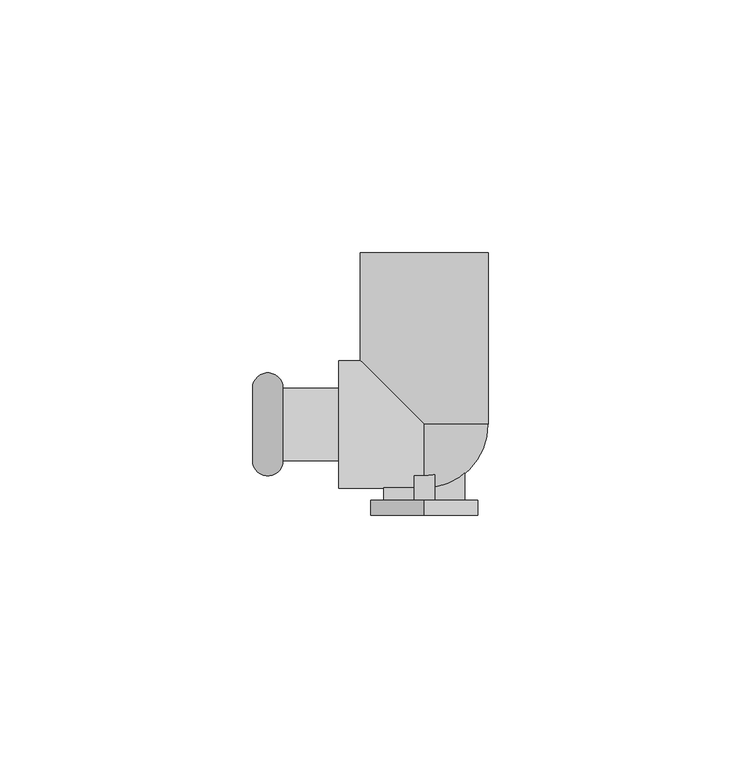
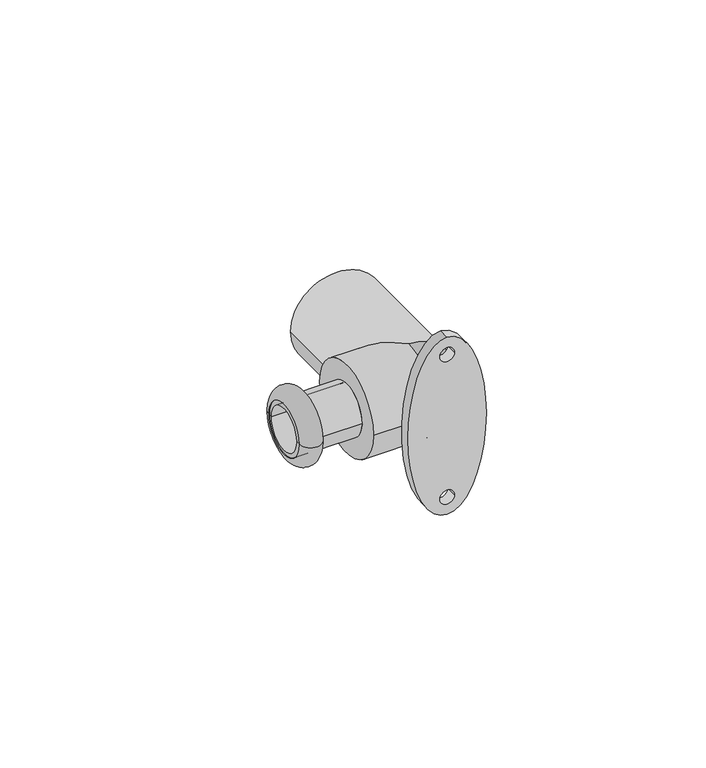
"""IFC4 building model written with IfcOpenShell, lengths in millimetres: pipe fitting geometry."""

from ifc_helpers import new_model, si_unit, point, frame, origin, place, context, project, spatial, polyline, circle_curve, ellipse_curve, trimmed, outline, extrude, source, transform, mapped, element, save
from ifc_brep_helpers import plane_surface, cylinder_surface, revolved_surface, extruded_surface, advanced_brep


def pipe_fitting_ba9ec953(model_context):
    return source(origin(), model_context, "Body", "SolidModel", [
        advanced_brep(
        [(-34.0, 7.2, 0.0), (-34.0, -7.2, 0.0), (-27.9987073, -7.2, 0.0), (-27.9987073, 7.2, 0.0)],
        [
            (0, 1, circle_curve(frame((-34.0, 0.0, 0.0), z_axis=(-1.0, 0.0, 0.0), x_axis=(0.0, -1.0000000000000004, 0.0)), 7.2)),
            (1, 2),
            (2, 3, circle_curve(frame((-27.9987073, 0.0, 0.0), z_axis=(1.0, 0.0, 0.0), x_axis=(0.0, -1.0000000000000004, 0.0)), 7.2)),
            (3, 0),
            (1, 0, circle_curve(frame((-34.0, 0.0, 0.0), z_axis=(-1.0, 0.0, 0.0), x_axis=(0.0, -1.0000000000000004, 0.0)), 7.2)),
            (3, 2, circle_curve(frame((-27.9987073, 0.0, 0.0), z_axis=(1.0, 0.0, 0.0), x_axis=(0.0, -1.0000000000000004, 0.0)), 7.2)),
            (2, 1, circle_curve(frame((-30.9993536, -7.2, 0.0), z_axis=(0.0, 0.0, -1.0000000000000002), x_axis=(-1.0000000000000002, 0.0, 0.0)), 3.0006464)),
            (0, 3, circle_curve(frame((-30.9993536, 7.2, 0.0), z_axis=(0.0, 0.0, -1.0000000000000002), x_axis=(-1.0000000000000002, 0.0, 0.0)), 3.0006464)),
        ],
        [
            revolved_surface(polyline([(-27.998707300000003, -7.200000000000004, 0.0), (-34.00000000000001, -7.200000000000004, 0.0)]), (-17.0, 0.0, 0.0), (1.0000000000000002, 0.0, 0.0)),
            revolved_surface(trimmed(ellipse_curve(frame((-30.9993536, -7.2, 0.0), z_axis=(0.0, 0.0, 1.0000000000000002), x_axis=(-1.0000000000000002, 0.0, 0.0)), 3.0006464, 3.0006464), [point((-34.0, -7.2, 0.0))], [point((-27.9987073, -7.2, 0.0))], True, "CARTESIAN"), (-17.0, 0.0, 0.0), (1.0000000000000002, 0.0, 0.0)),
        ],
        [
            (0, [[1, 2, 3, 4]]),
            (0, [[5, -4, 6, -2]]),
            (1, [[-3, 7, -1, 8]]),
            (1, [[-6, -8, -5, -7]]),
        ],
    ),
        advanced_brep(
        [(-34.0, 6.0, 0.0), (-34.0, -6.0, 0.0), (-16.0, -6.0, 0.0), (-16.0, 6.0, 0.0), (-34.0, 7.2, 0.0), (-34.0, -7.2, 0.0), (-17.0, 7.2, 0.0), (-17.0, -7.2, 0.0)],
        [
            (0, 1, circle_curve(frame((-34.0, 0.0, 0.0), z_axis=(-1.0, 0.0, 0.0), x_axis=(0.0, -1.0000000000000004, 0.0)), 6.0)),
            (1, 2),
            (2, 3, circle_curve(frame((-16.0, 0.0, 0.0), z_axis=(1.0, 0.0, 0.0), x_axis=(0.0, -1.0000000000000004, 0.0)), 6.0)),
            (3, 0),
            (1, 0, circle_curve(frame((-34.0, 0.0, 0.0), z_axis=(-1.0, 0.0, 0.0), x_axis=(0.0, -1.0000000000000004, 0.0)), 6.0)),
            (3, 2, circle_curve(frame((-16.0, 0.0, 0.0), z_axis=(1.0, 0.0, 0.0), x_axis=(0.0, -1.0000000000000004, 0.0)), 6.0)),
            (4, 5, circle_curve(frame((-34.0, 0.0, 0.0), z_axis=(-1.0, 0.0, 0.0), x_axis=(0.0, -1.0000000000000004, 0.0)), 7.2)),
            (5, 1),
            (0, 4),
            (5, 4, circle_curve(frame((-34.0, 0.0, 0.0), z_axis=(-1.0, 0.0, 0.0), x_axis=(0.0, -1.0000000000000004, 0.0)), 7.2)),
            (6, 7, circle_curve(frame((-17.0, 0.0, 0.0), z_axis=(-1.0, 0.0, 0.0), x_axis=(0.0, -1.0000000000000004, 0.0)), 7.2)),
            (7, 5),
            (4, 6),
            (7, 6, circle_curve(frame((-17.0, 0.0, 0.0), z_axis=(-1.0, 0.0, 0.0), x_axis=(0.0, -1.0000000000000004, 0.0)), 7.2)),
            (2, 7),
            (6, 3),
        ],
        [
            revolved_surface(polyline([(-16.0, -6.000000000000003, 0.0), (-34.00000000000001, -6.000000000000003, 0.0)]), (-17.0, 0.0, 0.0), (1.0000000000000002, 0.0, 0.0)),
            plane_surface(frame((-34.0, 0.0, 0.0), z_axis=(-1.0, 0.0, 0.0), x_axis=(0.0, -1.0, 0.0))),
            cylinder_surface(frame((-17.0, 0.0, 0.0), z_axis=(1.0000000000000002, 0.0, 0.0), x_axis=(0.0, -1.0000000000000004, 0.0)), 7.2),
            revolved_surface(polyline([(-17.0, -7.2, 0.0), (-16.0, -6.0, 0.0)]), (-17.0, 0.0, 0.0), (1.0000000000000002, 0.0, 0.0)),
        ],
        [
            (0, [[1, 2, 3, 4]]),
            (0, [[5, -4, 6, -2]]),
            (1, [[7, 8, -1, 9]]),
            (1, [[10, -9, -5, -8]]),
            (2, [[11, 12, -7, 13]]),
            (2, [[14, -13, -10, -12]]),
            (3, [[-3, 15, -11, 16]]),
            (3, [[-6, -16, -14, -15]]),
        ],
    ),
        advanced_brep(
        [(0.0, 0.0, 12.65), (0.0, -12.65, 0.0), (0.0, 0.0, -12.65), (12.65, 0.0, 0.0), (-17.0, 12.65, 0.0), (-17.0, -12.65, 0.0), (-12.65, 12.65, 0.0), (12.65, 34.0, 0.0), (-12.65, 34.0, 0.0), (-8.65, 34.0, 0.0), (8.65, 34.0, 0.0), (8.65, 19.35, 0.0), (-8.65, 19.35, 0.0)],
        [
            (0, 1, circle_curve(frame((0.0, 0.0, 0.0), z_axis=(1.0, 0.0, 0.0), x_axis=(0.0, 1.0, 0.0)), 12.65)),
            (1, 2, circle_curve(frame((0.0, 0.0, 0.0), z_axis=(1.0, 0.0, 0.0), x_axis=(0.0, 1.0, 0.0)), 12.65)),
            (2, 3, circle_curve(frame((0.0, 0.0, 0.0), z_axis=(0.0, -1.0, 0.0), x_axis=(0.0, 0.0, 1.0)), 12.65)),
            (3, 0, circle_curve(frame((0.0, 0.0, 0.0), z_axis=(0.0, -1.0, 0.0), x_axis=(0.0, 0.0, 1.0)), 12.65)),
            (4, 5, circle_curve(frame((-17.0, 0.0, 0.0), z_axis=(-1.0, 0.0, 0.0), x_axis=(0.0, -1.0, 0.0)), 12.65)),
            (5, 4, circle_curve(frame((-17.0, 0.0, 0.0), z_axis=(-1.0, 0.0, 0.0), x_axis=(0.0, -1.0, 0.0)), 12.65)),
            (5, 1),
            (0, 6, ellipse_curve(frame((0.0, 0.0, 0.0), z_axis=(-0.7071067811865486, -0.7071067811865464, 0.0), x_axis=(0.7071067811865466, -0.7071067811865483, 0.0)), 17.8898016, 12.65)),
            (6, 4),
            (6, 2, ellipse_curve(frame((0.0, 0.0, 0.0), z_axis=(-0.7071067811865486, -0.7071067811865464, 0.0), x_axis=(0.7071067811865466, -0.7071067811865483, 0.0)), 17.8898016, 12.65)),
            (7, 8, circle_curve(frame((0.0, 34.0, 0.0), z_axis=(0.0, 1.0, 0.0), x_axis=(-1.0, 0.0, 0.0)), 12.65)),
            (8, 7, circle_curve(frame((0.0, 34.0, 0.0), z_axis=(0.0, 1.0, 0.0), x_axis=(-1.0, 0.0, 0.0)), 12.65)),
            (9, 10, circle_curve(frame((0.0, 34.0, 0.0), z_axis=(0.0, -1.0, 0.0), x_axis=(-1.0, 0.0, 0.0)), 8.65)),
            (10, 9, circle_curve(frame((0.0, 34.0, 0.0), z_axis=(0.0, -1.0, 0.0), x_axis=(-1.0, 0.0, 0.0)), 8.65)),
            (8, 6),
            (3, 7),
            (11, 12, circle_curve(frame((0.0, 19.35, 0.0), z_axis=(0.0, 1.0, 0.0), x_axis=(-1.0, 0.0, 0.0)), 8.65)),
            (12, 11, circle_curve(frame((0.0, 19.35, 0.0), z_axis=(0.0, 1.0, 0.0), x_axis=(-1.0, 0.0, 0.0)), 8.65)),
            (11, 10),
            (9, 12),
        ],
        [
            revolved_surface(trimmed(ellipse_curve(frame((0.0, 0.0, 0.0), z_axis=(1.0, 0.0, 0.0), x_axis=(0.0, 1.0, 0.0)), 12.65, 12.65), [point((0.0, 0.0, 12.65))], [point((0.0, -12.65, 0.0))], True, "CARTESIAN"), (0.0, 0.0, 0.0), (0.0, -1.0, 0.0)),
            plane_surface(frame((-17.0, 0.0, 0.0), z_axis=(-1.0, 0.0, 0.0), x_axis=(0.0, 0.0, 1.0))),
            cylinder_surface(frame((0.0, 0.0, 0.0), z_axis=(1.0, 0.0, 0.0), x_axis=(0.0, -1.0, 0.0)), 12.65),
            plane_surface(frame((0.0, 34.0, 0.0), z_axis=(0.0, 1.0, 0.0), x_axis=(0.0, 0.0, 1.0))),
            cylinder_surface(frame((0.0, 0.0, 0.0), z_axis=(0.0, -1.0, 0.0), x_axis=(-1.0, 0.0, 0.0)), 12.65),
            plane_surface(frame((-8.65, 19.35, 0.0), z_axis=(0.0, 1.0, 0.0), x_axis=(0.0, 0.0, -1.0))),
            revolved_surface(polyline([(-8.65, 34.0, 0.0), (-8.65, 19.35, 0.0)]), (0.0, 19.35, 0.0), (0.0, 1.0, 0.0)),
        ],
        [
            (0, [[1, 2, 3, 4]]),
            (1, [[5, 6]]),
            (2, [[-6, 7, -1, 8, 9]]),
            (2, [[-5, -9, 10, -2, -7]]),
            (3, [[11, 12], [13, 14]]),
            (4, [[-12, 15, -8, -4, 16]]),
            (4, [[-11, -16, -3, -10, -15]]),
            (5, [[17, 18]]),
            (6, [[-17, 19, -13, 20]]),
            (6, [[-18, -20, -14, -19]]),
        ],
    ),
        extrude(outline(polyline([(8.0, 2.0), (8.0, -2.0), (2.0, -2.0), (2.0, -8.0), (-2.0, -8.0), (-2.0, -2.0), (-8.0, -2.0), (-8.0, 2.0), (-2.0, 2.0), (-2.0, 8.0), (2.0, 8.0), (2.0, 2.0), (8.0, 2.0)])), frame((0.0, -15.0, 0.0), z_axis=(0.0, 1.0, 0.0), x_axis=(0.0, 0.0, 1.0)), (0.0, 0.0, 1.0), 15.0),
        advanced_brep(
        [(0.0, -15.0, 25.5), (0.0, -15.0, -25.5), (1.975342, -15.0, 20.5), (-1.975342, -15.0, 20.5), (1.975342, -15.0, -20.5), (-1.975342, -15.0, -20.5), (0.0, -18.0, 25.5), (0.0, -18.0, -25.5), (1.975342, -18.0, 20.5), (-1.975342, -18.0, 20.5), (1.975342, -18.0, -20.5), (-1.975342, -18.0, -20.5)],
        [
            (0, 1, ellipse_curve(frame((0.0, -15.0, 0.0), z_axis=(0.0, 1.0, 0.0), x_axis=(0.0, 0.0, -1.0)), 25.5, 10.65)),
            (1, 0, ellipse_curve(frame((0.0, -15.0, 0.0), z_axis=(0.0, 1.0, 0.0), x_axis=(0.0, 0.0, -1.0)), 25.5, 10.65)),
            (2, 3, circle_curve(frame((0.0, -15.0, 20.5), z_axis=(0.0, -1.0, 0.0), x_axis=(-1.0, 0.0, 0.0)), 1.975342)),
            (3, 2, circle_curve(frame((0.0, -15.0, 20.5), z_axis=(0.0, -1.0, 0.0), x_axis=(-1.0, 0.0, 0.0)), 1.975342)),
            (4, 5, circle_curve(frame((0.0, -15.0, -20.5), z_axis=(0.0, -1.0, 0.0), x_axis=(-1.0, 0.0, 0.0)), 1.975342)),
            (5, 4, circle_curve(frame((0.0, -15.0, -20.5), z_axis=(0.0, -1.0, 0.0), x_axis=(-1.0, 0.0, 0.0)), 1.975342)),
            (6, 7, ellipse_curve(frame((0.0, -18.0, 0.0), z_axis=(0.0, -1.0, 0.0), x_axis=(0.0, 0.0, -1.0)), 25.5, 10.65)),
            (7, 6, ellipse_curve(frame((0.0, -18.0, 0.0), z_axis=(0.0, -1.0, 0.0), x_axis=(0.0, 0.0, -1.0)), 25.5, 10.65)),
            (8, 9, circle_curve(frame((0.0, -18.0, 20.5), z_axis=(0.0, 1.0, 0.0), x_axis=(-1.0, 0.0, 0.0)), 1.975342)),
            (9, 8, circle_curve(frame((0.0, -18.0, 20.5), z_axis=(0.0, 1.0, 0.0), x_axis=(-1.0, 0.0, 0.0)), 1.975342)),
            (10, 11, circle_curve(frame((0.0, -18.0, -20.5), z_axis=(0.0, 1.0, 0.0), x_axis=(-1.0, 0.0, 0.0)), 1.975342)),
            (11, 10, circle_curve(frame((0.0, -18.0, -20.5), z_axis=(0.0, 1.0, 0.0), x_axis=(-1.0, 0.0, 0.0)), 1.975342)),
            (2, 8),
            (9, 3),
            (4, 10),
            (11, 5),
            (0, 6),
            (7, 1),
        ],
        [
            plane_surface(frame((-1.975342, -15.0, 20.5), z_axis=(0.0, 1.0, 0.0), x_axis=(0.0, 0.0, -1.0))),
            plane_surface(frame((-1.975342, -18.0, 20.5), z_axis=(0.0, -1.0, 0.0), x_axis=(0.0, 0.0, 1.0))),
            revolved_surface(polyline([(-1.975342, -18.0, 20.5), (-1.975342, -15.0, 20.5)]), (0.0, -18.0, 20.5), (0.0, -1.0, 0.0)),
            revolved_surface(polyline([(-1.975342, -18.0, -20.5), (-1.975342, -15.0, -20.5)]), (0.0, -18.0, -20.5), (0.0, -1.0, 0.0)),
            extruded_surface(trimmed(ellipse_curve(frame((0.0, -21.0, 0.0), z_axis=(0.0, 1.0, 0.0), x_axis=(0.0, 0.0, -1.0)), 25.5, 10.65), [point((0.0, -21.0, 25.5))], [point((0.0, -21.0, -25.5))], True, "CARTESIAN"), (0.0, 3.0, 0.0), 3.0),
            extruded_surface(trimmed(ellipse_curve(frame((0.0, -21.0, 0.0), z_axis=(0.0, 1.0, 0.0), x_axis=(0.0, 0.0, -1.0)), 25.5, 10.65), [point((0.0, -21.0, -25.5))], [point((0.0, -21.0, 25.5))], True, "CARTESIAN"), (0.0, 3.0, 0.0), 3.0),
        ],
        [
            (0, [[1, 2], [3, 4], [5, 6]]),
            (1, [[7, 8], [9, 10], [11, 12]]),
            (2, [[-3, 13, -10, 14]]),
            (2, [[-4, -14, -9, -13]]),
            (3, [[-5, 15, -12, 16]]),
            (3, [[-6, -16, -11, -15]]),
            (4, [[-1, 17, -8, 18]]),
            (5, [[-2, -18, -7, -17]]),
        ],
    ),
    ])


if __name__ == "__main__":
    model = new_model("IFC4")
    model_context = context("Model", 3, world=origin())
    ifc_project = project(units=[si_unit("LENGTHUNIT", "METRE", prefix="MILLI")], contexts=[model_context])
    site = spatial("IfcSite", under=ifc_project)
    building = spatial("IfcBuilding", under=site)
    placement = place(None, origin())
    pipe_fitting_shape = pipe_fitting_ba9ec953(model_context)
    element("IfcPipeFitting", 1, ObjectType="NLRS_50_PIF_UN_Mapress koper muurplaat 90°_geb : DN10-20-Rp3/4\" / d12-22-Rp3/4\" (L1=52 mm)", at=placement, inside=building, context=model_context, shape_type="MappedRepresentation", body=[
        mapped(pipe_fitting_shape, transform((0.0, 0.0, 0.0), x_axis=(1.0, 0.0, 0.0), y_axis=(0.0, 1.0, 0.0), z_axis=(0.0, 0.0, 1.0))),
    ])
    save(model, "model.ifc")
